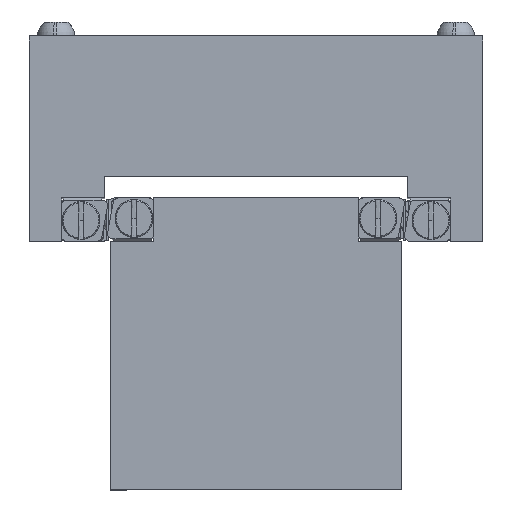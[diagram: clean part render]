
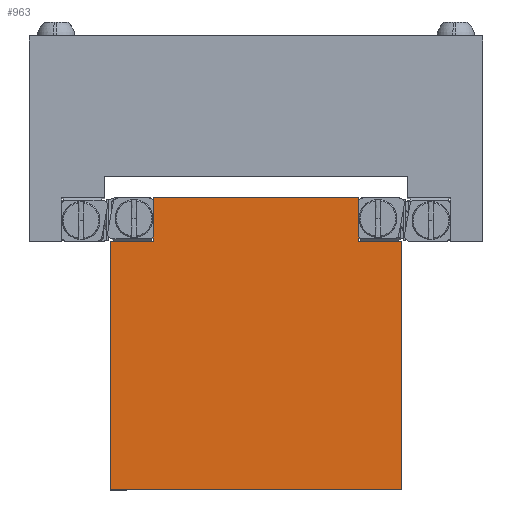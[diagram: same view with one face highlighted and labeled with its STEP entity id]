
A CAD part, top view. The second image highlights one B-rep face of the part: STEP entity #963.
In plain terms, the highlighted planar face has unit normal (0, 0, 1).
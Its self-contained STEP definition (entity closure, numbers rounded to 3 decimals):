
#836=AXIS2_PLACEMENT_3D('Plane Axis2P3D',#833,#834,#835) ;
#313=CARTESIAN_POINT('Vertex',(-13.5,23.,30.)) ;
#327=CARTESIAN_POINT('Vertex',(-13.5,0.,30.)) ;
#330=CARTESIAN_POINT('Line Origine',(-13.5,11.5,30.)) ;
#524=CARTESIAN_POINT('Vertex',(-9.5,23.,30.)) ;
#532=CARTESIAN_POINT('Line Origine',(-11.5,23.,30.)) ;
#814=CARTESIAN_POINT('Vertex',(13.5,0.,30.)) ;
#817=CARTESIAN_POINT('Line Origine',(0.,0.,30.)) ;
#833=CARTESIAN_POINT('Axis2P3D Location',(0.,0.,30.)) ;
#838=CARTESIAN_POINT('Line Origine',(9.5,26.859,30.)) ;
#842=CARTESIAN_POINT('Vertex',(9.5,26.718,30.)) ;
#844=CARTESIAN_POINT('Vertex',(9.5,27.,30.)) ;
#847=CARTESIAN_POINT('Line Origine',(0.,27.,30.)) ;
#851=CARTESIAN_POINT('Vertex',(-9.5,27.,30.)) ;
#854=CARTESIAN_POINT('Line Origine',(-9.5,26.859,30.)) ;
#858=CARTESIAN_POINT('Vertex',(-9.5,26.718,30.)) ;
#862=CARTESIAN_POINT('Control Point',(-9.5,26.718,30.)) ;
#863=CARTESIAN_POINT('Control Point',(-9.484,26.686,30.)) ;
#864=CARTESIAN_POINT('Control Point',(-9.472,26.652,30.)) ;
#865=CARTESIAN_POINT('Control Point',(-9.462,26.617,30.)) ;
#866=CARTESIAN_POINT('Control Point',(-9.454,26.572,30.)) ;
#867=CARTESIAN_POINT('Control Point',(-9.451,26.527,30.)) ;
#868=CARTESIAN_POINT('Control Point',(-9.45,26.518,30.)) ;
#869=CARTESIAN_POINT('Control Point',(-9.45,26.509,30.)) ;
#870=CARTESIAN_POINT('Control Point',(-9.45,26.5,30.)) ;
#871=CARTESIAN_POINT('Vertex',(-9.45,26.5,30.)) ;
#874=CARTESIAN_POINT('Line Origine',(-9.45,25.1,30.)) ;
#878=CARTESIAN_POINT('Vertex',(-9.45,23.7,30.)) ;
#882=CARTESIAN_POINT('Control Point',(-9.45,23.7,30.)) ;
#883=CARTESIAN_POINT('Control Point',(-9.45,23.655,30.)) ;
#884=CARTESIAN_POINT('Control Point',(-9.455,23.61,30.)) ;
#885=CARTESIAN_POINT('Control Point',(-9.465,23.565,30.)) ;
#886=CARTESIAN_POINT('Control Point',(-9.48,23.523,30.)) ;
#887=CARTESIAN_POINT('Control Point',(-9.5,23.482,30.)) ;
#888=CARTESIAN_POINT('Vertex',(-9.5,23.482,30.)) ;
#891=CARTESIAN_POINT('Line Origine',(-9.5,23.241,30.)) ;
#896=CARTESIAN_POINT('Line Origine',(13.5,11.5,30.)) ;
#900=CARTESIAN_POINT('Vertex',(13.5,23.,30.)) ;
#903=CARTESIAN_POINT('Line Origine',(11.5,23.,30.)) ;
#907=CARTESIAN_POINT('Vertex',(9.5,23.,30.)) ;
#910=CARTESIAN_POINT('Line Origine',(9.5,23.241,30.)) ;
#914=CARTESIAN_POINT('Vertex',(9.5,23.482,30.)) ;
#918=CARTESIAN_POINT('Control Point',(9.5,23.482,30.)) ;
#919=CARTESIAN_POINT('Control Point',(9.484,23.514,30.)) ;
#920=CARTESIAN_POINT('Control Point',(9.472,23.548,30.)) ;
#921=CARTESIAN_POINT('Control Point',(9.462,23.583,30.)) ;
#922=CARTESIAN_POINT('Control Point',(9.454,23.628,30.)) ;
#923=CARTESIAN_POINT('Control Point',(9.451,23.673,30.)) ;
#924=CARTESIAN_POINT('Control Point',(9.45,23.682,30.)) ;
#925=CARTESIAN_POINT('Control Point',(9.45,23.691,30.)) ;
#926=CARTESIAN_POINT('Control Point',(9.45,23.7,30.)) ;
#927=CARTESIAN_POINT('Vertex',(9.45,23.7,30.)) ;
#930=CARTESIAN_POINT('Line Origine',(9.45,25.1,30.)) ;
#934=CARTESIAN_POINT('Vertex',(9.45,26.5,30.)) ;
#938=CARTESIAN_POINT('Control Point',(9.45,26.5,30.)) ;
#939=CARTESIAN_POINT('Control Point',(9.45,26.545,30.)) ;
#940=CARTESIAN_POINT('Control Point',(9.455,26.59,30.)) ;
#941=CARTESIAN_POINT('Control Point',(9.465,26.635,30.)) ;
#942=CARTESIAN_POINT('Control Point',(9.48,26.677,30.)) ;
#943=CARTESIAN_POINT('Control Point',(9.5,26.718,30.)) ;
#331=DIRECTION('Vector Direction',(0.,1.,0.)) ;
#533=DIRECTION('Vector Direction',(1.,0.,0.)) ;
#818=DIRECTION('Vector Direction',(-1.,0.,0.)) ;
#834=DIRECTION('Axis2P3D Direction',(0.,0.,1.)) ;
#835=DIRECTION('Axis2P3D XDirection',(1.,0.,0.)) ;
#839=DIRECTION('Vector Direction',(0.,1.,0.)) ;
#848=DIRECTION('Vector Direction',(-1.,0.,0.)) ;
#855=DIRECTION('Vector Direction',(0.,1.,0.)) ;
#875=DIRECTION('Vector Direction',(0.,1.,0.)) ;
#892=DIRECTION('Vector Direction',(0.,1.,0.)) ;
#897=DIRECTION('Vector Direction',(0.,-1.,0.)) ;
#904=DIRECTION('Vector Direction',(-1.,0.,0.)) ;
#911=DIRECTION('Vector Direction',(0.,1.,0.)) ;
#931=DIRECTION('Vector Direction',(0.,-1.,0.)) ;
#332=VECTOR('Line Direction',#331,1.) ;
#534=VECTOR('Line Direction',#533,1.) ;
#819=VECTOR('Line Direction',#818,1.) ;
#840=VECTOR('Line Direction',#839,1.) ;
#849=VECTOR('Line Direction',#848,1.) ;
#856=VECTOR('Line Direction',#855,1.) ;
#876=VECTOR('Line Direction',#875,1.) ;
#893=VECTOR('Line Direction',#892,1.) ;
#898=VECTOR('Line Direction',#897,1.) ;
#905=VECTOR('Line Direction',#904,1.) ;
#912=VECTOR('Line Direction',#911,1.) ;
#932=VECTOR('Line Direction',#931,1.) ;
#946=ORIENTED_EDGE('',*,*,#846,.T.) ;
#947=ORIENTED_EDGE('',*,*,#853,.T.) ;
#948=ORIENTED_EDGE('',*,*,#860,.T.) ;
#949=ORIENTED_EDGE('',*,*,#873,.F.) ;
#950=ORIENTED_EDGE('',*,*,#880,.F.) ;
#951=ORIENTED_EDGE('',*,*,#890,.F.) ;
#952=ORIENTED_EDGE('',*,*,#895,.T.) ;
#953=ORIENTED_EDGE('',*,*,#536,.T.) ;
#954=ORIENTED_EDGE('',*,*,#334,.T.) ;
#955=ORIENTED_EDGE('',*,*,#821,.T.) ;
#956=ORIENTED_EDGE('',*,*,#902,.T.) ;
#957=ORIENTED_EDGE('',*,*,#909,.T.) ;
#958=ORIENTED_EDGE('',*,*,#916,.T.) ;
#959=ORIENTED_EDGE('',*,*,#929,.F.) ;
#960=ORIENTED_EDGE('',*,*,#936,.F.) ;
#961=ORIENTED_EDGE('',*,*,#944,.F.) ;
#963=ADVANCED_FACE('Brep With Voids',(#962),#837,.T.) ;
#861=B_SPLINE_CURVE_WITH_KNOTS('',5,(#862,#863,#864,#865,#866,#867,#868,#869,#870),.UNSPECIFIED.,.F.,.U.,(6,3,6),(0.,0.255,0.318),.UNSPECIFIED.) ;
#881=B_SPLINE_CURVE_WITH_KNOTS('',5,(#882,#883,#884,#885,#886,#887),.UNSPECIFIED.,.F.,.U.,(6,6),(0.,0.32),.UNSPECIFIED.) ;
#917=B_SPLINE_CURVE_WITH_KNOTS('',5,(#918,#919,#920,#921,#922,#923,#924,#925,#926),.UNSPECIFIED.,.F.,.U.,(6,3,6),(0.,0.255,0.318),.UNSPECIFIED.) ;
#937=B_SPLINE_CURVE_WITH_KNOTS('',5,(#938,#939,#940,#941,#942,#943),.UNSPECIFIED.,.F.,.U.,(6,6),(0.,0.32),.UNSPECIFIED.) ;
#334=EDGE_CURVE('',#314,#328,#333,.F.) ;
#536=EDGE_CURVE('',#525,#314,#535,.F.) ;
#821=EDGE_CURVE('',#328,#815,#820,.F.) ;
#846=EDGE_CURVE('',#843,#845,#841,.T.) ;
#853=EDGE_CURVE('',#845,#852,#850,.T.) ;
#860=EDGE_CURVE('',#852,#859,#857,.F.) ;
#873=EDGE_CURVE('',#872,#859,#861,.F.) ;
#880=EDGE_CURVE('',#879,#872,#877,.T.) ;
#890=EDGE_CURVE('',#889,#879,#881,.F.) ;
#895=EDGE_CURVE('',#889,#525,#894,.F.) ;
#902=EDGE_CURVE('',#815,#901,#899,.F.) ;
#909=EDGE_CURVE('',#901,#908,#906,.T.) ;
#916=EDGE_CURVE('',#908,#915,#913,.T.) ;
#929=EDGE_CURVE('',#928,#915,#917,.F.) ;
#936=EDGE_CURVE('',#935,#928,#933,.T.) ;
#944=EDGE_CURVE('',#843,#935,#937,.F.) ;
#945=EDGE_LOOP('',(#946,#947,#948,#949,#950,#951,#952,#953,#954,#955,#956,#957,#958,#959,#960,#961)) ;
#962=FACE_OUTER_BOUND('',#945,.T.) ;
#333=LINE('Line',#330,#332) ;
#535=LINE('Line',#532,#534) ;
#820=LINE('Line',#817,#819) ;
#841=LINE('Line',#838,#840) ;
#850=LINE('Line',#847,#849) ;
#857=LINE('Line',#854,#856) ;
#877=LINE('Line',#874,#876) ;
#894=LINE('Line',#891,#893) ;
#899=LINE('Line',#896,#898) ;
#906=LINE('Line',#903,#905) ;
#913=LINE('Line',#910,#912) ;
#933=LINE('Line',#930,#932) ;
#837=PLANE('',#836) ;
#314=VERTEX_POINT('',#313) ;
#328=VERTEX_POINT('',#327) ;
#525=VERTEX_POINT('',#524) ;
#815=VERTEX_POINT('',#814) ;
#843=VERTEX_POINT('',#842) ;
#845=VERTEX_POINT('',#844) ;
#852=VERTEX_POINT('',#851) ;
#859=VERTEX_POINT('',#858) ;
#872=VERTEX_POINT('',#871) ;
#879=VERTEX_POINT('',#878) ;
#889=VERTEX_POINT('',#888) ;
#901=VERTEX_POINT('',#900) ;
#908=VERTEX_POINT('',#907) ;
#915=VERTEX_POINT('',#914) ;
#928=VERTEX_POINT('',#927) ;
#935=VERTEX_POINT('',#934) ;
